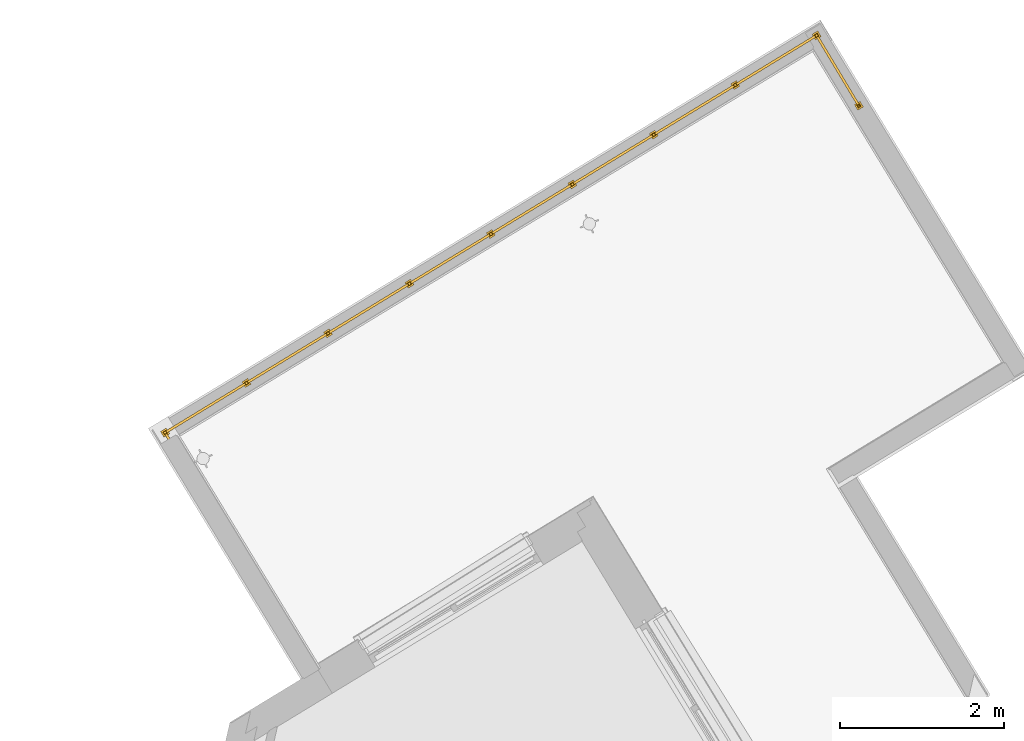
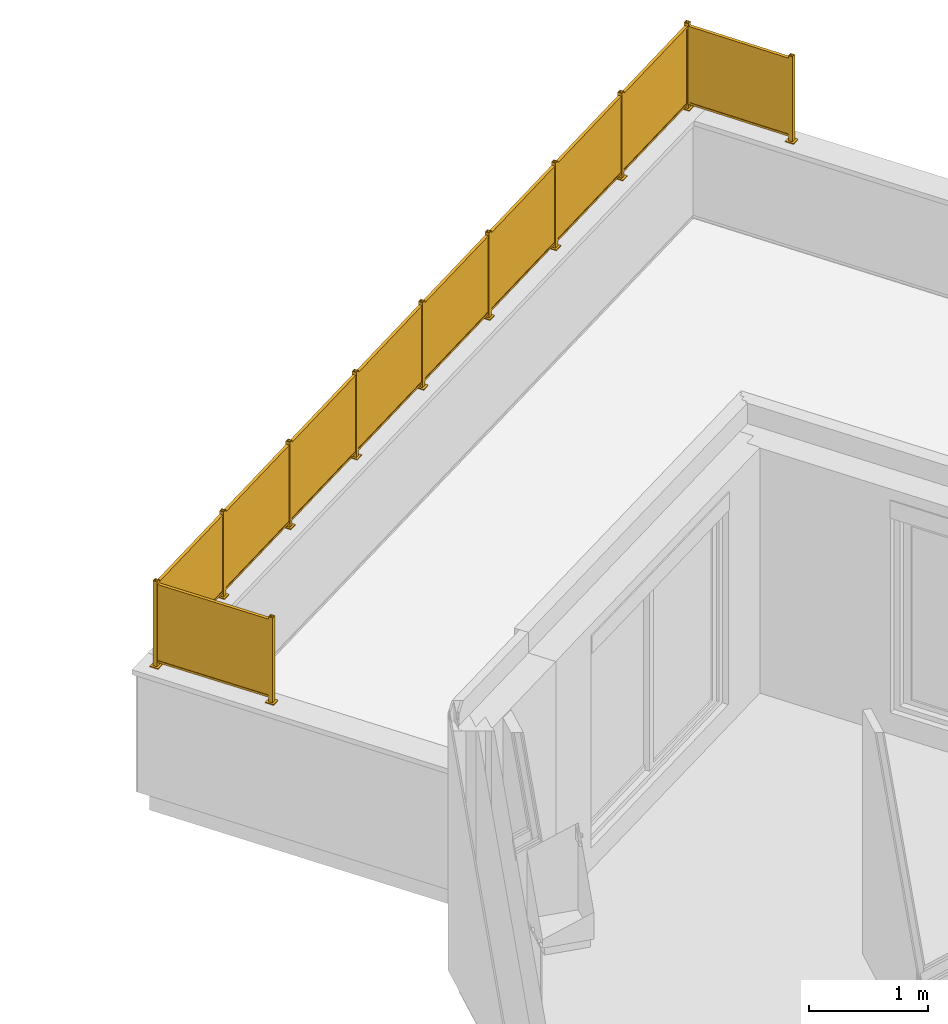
# One storey, part 61 of 91: 1 railing.
"""IFC2X3 building model written with IfcOpenShell, lengths in metres."""

from ifc_helpers import new_model, entity, si_unit, converted_unit, derived_unit, money_unit, direction, frame, origin_with_axes, place, context, subcontext, project, spatial, faceted_brep, material, material_list, type_object, element, save


model = new_model("IFC2X3")

# Units and contexts
model_context = context("Model", 3, precision=1e-05, world=origin_with_axes(), true_north=direction((0.0, 1.0)))
body_context = subcontext(model_context, "Body", "Model", "MODEL_VIEW")
ifc_project = project(units=[si_unit("LENGTHUNIT", "METRE"), si_unit("AREAUNIT", "SQUARE_METRE"), si_unit("VOLUMEUNIT", "CUBIC_METRE"), converted_unit("PLANEANGLEUNIT", "DEGREE", entity("IfcPlaneAngleMeasure", 0.0174532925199), si_unit("PLANEANGLEUNIT", "RADIAN"), dimensions=[0, 0, 0, 0, 0, 0, 0]), si_unit("SOLIDANGLEUNIT", "STERADIAN"), money_unit("EUR"), converted_unit("TIMEUNIT", "Year", entity("IfcTimeMeasure", 31556926.0), si_unit("TIMEUNIT", "SECOND"), dimensions=[0, 0, 1, 0, 0, 0, 0]), si_unit("MASSUNIT", "GRAM", prefix="KILO"), si_unit("THERMODYNAMICTEMPERATUREUNIT", "DEGREE_CELSIUS"), si_unit("LUMINOUSINTENSITYUNIT", "LUMEN"), si_unit("ENERGYUNIT", "JOULE", prefix="MEGA"), derived_unit("THERMALCONDUCTANCEUNIT", [(si_unit("POWERUNIT", "WATT"), 1), (si_unit("LENGTHUNIT", "METRE"), -1), (si_unit("THERMODYNAMICTEMPERATUREUNIT", "KELVIN"), -1)]), derived_unit("SPECIFICHEATCAPACITYUNIT", [(si_unit("ENERGYUNIT", "JOULE"), 1), (si_unit("MASSUNIT", "GRAM", prefix="KILO"), -1), (si_unit("THERMODYNAMICTEMPERATUREUNIT", "KELVIN"), -1)]), derived_unit("MASSDENSITYUNIT", [(si_unit("MASSUNIT", "GRAM", prefix="KILO"), 1), (si_unit("VOLUMEUNIT", "CUBIC_METRE"), -1)])], contexts=[model_context])

# Site, building, storey
site_placement = place(None, origin_with_axes())
site = spatial("IfcSite", under=ifc_project, at=site_placement, Name="Site", CompositionType="ELEMENT")
building_placement = place(site_placement, origin_with_axes())
building = spatial("IfcBuilding", under=site, at=building_placement, Name="Bâtiment", CompositionType="ELEMENT")
storey_placement = place(building_placement, frame((0.0, 0.0, 5.44), z_axis=(0.0, 0.0, 1.0), x_axis=(1.0, 0.0, 0.0)))
storey = spatial("IfcBuildingStorey", under=building, at=storey_placement, Name="R+2", CompositionType="ELEMENT", Elevation=5.44)

# Railing
ifc_material_1 = material(Name="Métal - Acier")
ifc_material_2 = material(Name="Métal - Acier inoxidable")
ifc_material_3 = material(Name="Vitrage")
ifc_material_list = material_list([ifc_material_1, ifc_material_1, ifc_material_1, ifc_material_1, ifc_material_2, ifc_material_3, ifc_material_2, ifc_material_3, ifc_material_1, ifc_material_2, ifc_material_3, ifc_material_1, ifc_material_2, ifc_material_3, ifc_material_1, ifc_material_2, ifc_material_3, ifc_material_1, ifc_material_2, ifc_material_3, ifc_material_1, ifc_material_2, ifc_material_3, ifc_material_1, ifc_material_2, ifc_material_3, ifc_material_1, ifc_material_2, ifc_material_3, ifc_material_2, ifc_material_3])
railing_type = type_object("IfcRailingType", Name="Type de garde-corps", PredefinedType="NOTDEFINED")
railing_placement = place(storey_placement, frame((-7.64598547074, 21.1799278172, 1.253), z_axis=(0.0, 0.0, 1.0), x_axis=(1.0, 0.0, 0.0)))
element("IfcRailing", 1, at=railing_placement, inside=storey, type_object=railing_type, material=ifc_material_list, Name="Pare-vue acier laqué+verre dépoli H=90", PredefinedType="NOTDEFINED", context=body_context, shape_type="Brep", body=[
    faceted_brep([(0.560882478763, -0.945621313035, 0.01), (0.586473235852, -0.929965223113, 0.01), (0.586473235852, -0.929965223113, 0.88), (0.560882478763, -0.945621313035, 0.88), (0.554008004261, -0.943965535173, 0.01), (0.588129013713, -0.923090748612, 0.01), (0.609003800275, -0.957211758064, 0.01), (0.574882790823, -0.978086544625, 0.01), (0.602129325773, -0.955555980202, 0.01), (0.576538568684, -0.971212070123, 0.01), (0.602129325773, -0.955555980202, 0.88), (0.609003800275, -0.957211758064, 0.88), (0.588129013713, -0.923090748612, 0.88), (0.554008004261, -0.943965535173, 0.88), (0.574882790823, -0.978086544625, 0.88), (0.576538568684, -0.971212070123, 0.88)], [[[0, 1, 2, 3]], [[4, 5, 6, 7], [8, 1, 0, 9]], [[1, 8, 10, 2]], [[11, 12, 13, 14], [3, 2, 10, 15]], [[9, 0, 3, 15]], [[5, 4, 13, 12]], [[6, 5, 12, 11]], [[7, 6, 11, 14]], [[4, 7, 14, 13]], [[8, 9, 15, 10]]]),
    faceted_brep([(0.568259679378, -1.00558444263, 0.0), (0.568259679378, -1.00558444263, 0.01), (0.526510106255, -0.937342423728, 0.01), (0.526510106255, -0.937342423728, 0.0), (0.636501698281, -0.963834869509, 0.0), (0.636501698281, -0.963834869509, 0.01), (0.594752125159, -0.895592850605, 0.01), (0.594752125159, -0.895592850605, 0.0)], [[[0, 1, 2, 3]], [[4, 5, 1, 0]], [[1, 5, 6, 2]], [[3, 2, 6, 7]], [[0, 3, 7, 4]], [[7, 6, 5, 4]]]),
    faceted_brep([(-0.0146015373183, -0.00496041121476, 0.01), (0.0109892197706, 0.0106956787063, 0.01), (0.0109892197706, 0.0106956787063, 0.88), (-0.0146015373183, -0.00496041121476, 0.88), (-0.02147601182, -0.00330463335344, 0.01), (0.0126449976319, 0.0175701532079, 0.01), (0.0335197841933, -0.016550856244, 0.01), (-0.000601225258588, -0.0374256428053, 0.01), (0.0266453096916, -0.0148950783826, 0.01), (0.00105455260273, -0.0305511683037, 0.01), (0.0266453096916, -0.0148950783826, 0.88), (0.0335197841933, -0.016550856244, 0.88), (0.0126449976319, 0.0175701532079, 0.88), (-0.02147601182, -0.00330463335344, 0.88), (-0.000601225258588, -0.0374256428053, 0.88), (0.00105455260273, -0.0305511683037, 0.88)], [[[0, 1, 2, 3]], [[4, 5, 6, 7], [8, 1, 0, 9]], [[1, 8, 10, 2]], [[11, 12, 13, 14], [3, 2, 10, 15]], [[9, 0, 3, 15]], [[5, 4, 13, 12]], [[6, 5, 12, 11]], [[7, 6, 11, 14]], [[4, 7, 14, 13]], [[8, 9, 15, 10]]]),
    faceted_brep([(-0.00722433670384, -0.064923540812, 0.0), (-0.00722433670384, -0.064923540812, 0.01), (-0.0489739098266, 0.00331847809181, 0.01), (-0.0489739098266, 0.00331847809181, 0.0), (0.0610176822, -0.0231739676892, 0.0), (0.0610176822, -0.0231739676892, 0.01), (0.0192681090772, 0.0450680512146, 0.01), (0.0192681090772, 0.0450680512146, 0.0)], [[[0, 1, 2, 3]], [[4, 5, 1, 0]], [[1, 5, 6, 2]], [[3, 2, 6, 7]], [[0, 3, 7, 4]], [[7, 6, 5, 4]]]),
    faceted_brep([(7.94738930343, 4.84945334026, 0.01), (7.96300638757, 4.82383876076, 0.01), (7.96300638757, 4.82383876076, 0.88), (7.94738930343, 4.84945334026, 0.88), (7.94905555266, 4.8563252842, 0.01), (7.96987833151, 4.82217251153, 0.01), (7.93572555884, 4.80134973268, 0.01), (7.91490277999, 4.83550250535, 0.01), (7.93739180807, 4.80822167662, 0.01), (7.92177472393, 4.83383625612, 0.01), (7.93739180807, 4.80822167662, 0.88), (7.93572555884, 4.80134973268, 0.88), (7.96987833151, 4.82217251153, 0.88), (7.94905555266, 4.8563252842, 0.88), (7.91490277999, 4.83550250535, 0.88), (7.92177472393, 4.83383625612, 0.88)], [[[0, 1, 2, 3]], [[4, 5, 6, 7], [8, 1, 0, 9]], [[1, 8, 10, 2]], [[11, 12, 13, 14], [3, 2, 10, 15]], [[9, 0, 3, 15]], [[5, 4, 13, 12]], [[6, 5, 12, 11]], [[7, 6, 11, 14]], [[4, 7, 14, 13]], [[8, 9, 15, 10]]]),
    faceted_brep([(7.88741500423, 4.84216750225, 0.0), (7.88741500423, 4.84216750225, 0.01), (7.95572054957, 4.88381305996, 0.01), (7.95572054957, 4.88381305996, 0.0), (7.92906056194, 4.77386195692, 0.0), (7.92906056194, 4.77386195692, 0.01), (7.99736610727, 4.81550751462, 0.01), (7.99736610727, 4.81550751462, 0.0)], [[[0, 1, 2, 3]], [[4, 5, 1, 0]], [[1, 5, 6, 2]], [[3, 2, 6, 7]], [[0, 3, 7, 4]], [[7, 6, 5, 4]]]),
    faceted_brep([(8.47779575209, 3.96640416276, 0.01), (8.4520768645, 3.95095946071, 0.01), (8.4520768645, 3.95095946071, 0.88), (8.47779575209, 3.96640416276, 0.88), (8.48465635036, 3.9646917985, 0.01), (8.45036450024, 3.94409886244, 0.01), (8.42977156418, 3.97839071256, 0.01), (8.4640634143, 3.99898364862, 0.01), (8.43663216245, 3.9766783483, 0.01), (8.46235105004, 3.99212305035, 0.01), (8.43663216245, 3.9766783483, 0.88), (8.42977156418, 3.97839071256, 0.88), (8.45036450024, 3.94409886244, 0.88), (8.48465635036, 3.9646917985, 0.88), (8.4640634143, 3.99898364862, 0.88), (8.46235105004, 3.99212305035, 0.88)], [[[0, 1, 2, 3]], [[4, 5, 6, 7], [8, 1, 0, 9]], [[1, 8, 10, 2]], [[11, 12, 13, 14], [3, 2, 10, 15]], [[9, 0, 3, 15]], [[5, 4, 13, 12]], [[6, 5, 12, 11]], [[7, 6, 11, 14]], [[4, 7, 14, 13]], [[8, 9, 15, 10]]]),
    faceted_brep([(8.47091287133, 4.02642604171, 0.0), (8.47091287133, 4.02642604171, 0.01), (8.51209874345, 3.95784234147, 0.01), (8.51209874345, 3.95784234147, 0.0), (8.40232917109, 3.98524016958, 0.0), (8.40232917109, 3.98524016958, 0.01), (8.44351504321, 3.91665646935, 0.01), (8.44351504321, 3.91665646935, 0.0)], [[[0, 1, 2, 3]], [[4, 5, 1, 0]], [[1, 5, 6, 2]], [[3, 2, 6, 7]], [[0, 3, 7, 4]], [[7, 6, 5, 4]]]),
    faceted_brep([(0.568710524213, -0.958416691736, 0.0499999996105), (0.568710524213, -0.958416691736, 0.850000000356), (-0.0146134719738, -0.00494090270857, 0.850000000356), (-0.0146134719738, -0.00494090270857, 0.0499999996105), (0.558273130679, -0.941356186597, 0.0700000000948), (-0.00417607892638, -0.0220014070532, 0.0700000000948), (-0.00417607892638, -0.0220014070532, 0.829999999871), (0.558273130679, -0.941356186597, 0.829999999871), (0.59430128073, -0.942760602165, 0.850000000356), (0.59430128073, -0.942760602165, 0.0499999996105), (0.0266572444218, -0.014914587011, 0.850000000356), (0.0266572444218, -0.014914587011, 0.0499999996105), (0.0370946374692, -0.0319750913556, 0.0700000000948), (0.583863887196, -0.925700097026, 0.0700000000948), (0.0370946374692, -0.0319750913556, 0.829999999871), (0.583863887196, -0.925700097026, 0.829999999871)], [[[0, 1, 2, 3], [4, 5, 6, 7]], [[8, 1, 0, 9]], [[2, 1, 8, 10]], [[3, 2, 10, 11]], [[9, 0, 3, 11]], [[12, 5, 4, 13]], [[6, 5, 12, 14]], [[7, 6, 14, 15]], [[13, 4, 7, 15]], [[10, 8, 9, 11], [14, 12, 13, 15]]]),
    faceted_brep([(0.562538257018, -0.938746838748, 0.0699999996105), (0.562538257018, -0.938746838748, 0.830000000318), (0.00270237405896, -0.0236636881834, 0.830000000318), (0.00270237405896, -0.0236636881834, 0.0699999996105), (0.579598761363, -0.928309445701, 0.830000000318), (0.579598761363, -0.928309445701, 0.0699999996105), (0.0302161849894, -0.0303128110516, 0.830000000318), (0.0302161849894, -0.0303128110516, 0.0699999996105)], [[[0, 1, 2, 3]], [[4, 1, 0, 5]], [[2, 1, 4, 6]], [[3, 2, 6, 7]], [[5, 0, 3, 7]], [[6, 4, 5, 7]]]),
    faceted_brep([(-0.0146134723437, -0.00494090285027, 0.0499999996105), (-0.0146134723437, -0.00494090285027, 0.850000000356), (0.990259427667, 0.607725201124, 0.850000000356), (0.990259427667, 0.607725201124, 0.0499999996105), (0.0024629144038, 0.00547048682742, 0.0700000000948), (0.973183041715, 0.597313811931, 0.0700000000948), (0.973183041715, 0.597313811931, 0.829999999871), (0.0024629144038, 0.00547048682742, 0.829999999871), (0.0266572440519, -0.0149145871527, 0.850000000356), (0.0266572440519, -0.0149145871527, 0.0499999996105), (1.00587651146, 0.582110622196, 0.850000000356), (1.00587651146, 0.582110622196, 0.0499999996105), (0.988800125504, 0.571699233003, 0.0700000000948), (0.0437336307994, -0.00450319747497, 0.0700000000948), (0.988800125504, 0.571699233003, 0.829999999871), (0.0437336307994, -0.00450319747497, 0.829999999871)], [[[0, 1, 2, 3], [4, 5, 6, 7]], [[8, 1, 0, 9]], [[2, 1, 8, 10]], [[3, 2, 10, 11]], [[9, 0, 3, 11]], [[12, 5, 4, 13]], [[6, 5, 12, 14]], [[7, 6, 14, 15]], [[13, 4, 7, 15]], [[10, 8, 9, 11], [14, 12, 13, 15]]]),
    faceted_brep([(0.00934136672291, 0.00380820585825, 0.0699999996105), (0.00934136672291, 0.00380820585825, 0.830000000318), (0.975785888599, 0.593044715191, 0.830000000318), (0.975785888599, 0.593044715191, 0.0699999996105), (0.0368551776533, -0.00284091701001, 0.830000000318), (0.0368551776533, -0.00284091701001, 0.0699999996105), (0.986197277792, 0.575968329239, 0.830000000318), (0.986197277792, 0.575968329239, 0.0699999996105)], [[[0, 1, 2, 3]], [[4, 1, 0, 5]], [[2, 1, 4, 6]], [[3, 2, 6, 7]], [[5, 0, 3, 7]], [[6, 4, 5, 7]]]),
    faceted_brep([(1.00306671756, 0.615533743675, 0.01), (1.0186838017, 0.589919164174, 0.01), (1.0186838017, 0.589919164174, 0.88), (1.00306671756, 0.615533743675, 0.88), (1.00473296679, 0.622405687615, 0.01), (1.02555574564, 0.588252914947, 0.01), (0.991402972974, 0.567430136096, 0.01), (0.970580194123, 0.601582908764, 0.01), (0.993069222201, 0.574302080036, 0.01), (0.977452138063, 0.599916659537, 0.01), (0.993069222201, 0.574302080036, 0.88), (0.991402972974, 0.567430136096, 0.88), (1.02555574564, 0.588252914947, 0.88), (1.00473296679, 0.622405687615, 0.88), (0.970580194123, 0.601582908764, 0.88), (0.977452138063, 0.599916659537, 0.88)], [[[0, 1, 2, 3]], [[4, 5, 6, 7], [8, 1, 0, 9]], [[1, 8, 10, 2]], [[11, 12, 13, 14], [3, 2, 10, 15]], [[9, 0, 3, 15]], [[5, 4, 13, 12]], [[6, 5, 12, 11]], [[7, 6, 11, 14]], [[4, 7, 14, 13]], [[8, 9, 15, 10]]]),
    faceted_brep([(0.943092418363, 0.608247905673, 0.0), (0.943092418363, 0.608247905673, 0.01), (1.0113979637, 0.649893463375, 0.01), (1.0113979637, 0.649893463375, 0.0), (0.984737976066, 0.539942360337, 0.0), (0.984737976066, 0.539942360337, 0.01), (1.0530435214, 0.581587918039, 0.01), (1.0530435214, 0.581587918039, 0.0)], [[[0, 1, 2, 3]], [[4, 5, 1, 0]], [[1, 5, 6, 2]], [[3, 2, 6, 7]], [[0, 3, 7, 4]], [[7, 6, 5, 4]]]),
    faceted_brep([(1.98230551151, 1.21257085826, 0.05), (0.990259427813, 0.607725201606, 0.05), (0.990259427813, 0.607725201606, 0.85), (1.98230551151, 1.21257085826, 0.85), (1.00733581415, 0.618136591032, 0.83), (1.00733581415, 0.618136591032, 0.07), (1.96522912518, 1.20215946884, 0.07), (1.96522912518, 1.20215946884, 0.83), (1.00587651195, 0.582110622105, 0.05), (1.99792259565, 1.18695627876, 0.05), (1.00587651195, 0.582110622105, 0.85), (1.99792259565, 1.18695627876, 0.85), (1.02295289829, 0.592522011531, 0.07), (1.02295289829, 0.592522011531, 0.83), (1.98084620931, 1.17654488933, 0.07), (1.98084620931, 1.17654488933, 0.83)], [[[0, 1, 2, 3], [4, 5, 6, 7]], [[8, 1, 0, 9]], [[10, 2, 1, 8]], [[3, 2, 10, 11]], [[0, 3, 11, 9]], [[12, 5, 4, 13]], [[14, 6, 5, 12]], [[7, 6, 14, 15]], [[4, 7, 15, 13]], [[10, 8, 9, 11], [14, 12, 13, 15]]]),
    faceted_brep([(1.96783197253, 1.19789037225, 0.07), (1.0099386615, 0.613867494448, 0.07), (1.0099386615, 0.613867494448, 0.83), (1.96783197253, 1.19789037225, 0.83), (1.02035005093, 0.596791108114, 0.07), (1.97824336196, 1.18081398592, 0.07), (1.02035005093, 0.596791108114, 0.83), (1.97824336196, 1.18081398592, 0.83)], [[[0, 1, 2, 3]], [[4, 1, 0, 5]], [[6, 2, 1, 4]], [[3, 2, 6, 7]], [[0, 3, 7, 5]], [[6, 4, 5, 7]]]),
    faceted_brep([(1.99511280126, 1.22037940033, 0.01), (2.0107298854, 1.19476482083, 0.01), (2.0107298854, 1.19476482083, 0.88), (1.99511280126, 1.22037940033, 0.88), (1.99677905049, 1.22725134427, 0.01), (2.01760182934, 1.1930985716, 0.01), (1.98344905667, 1.17227579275, 0.01), (1.96262627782, 1.20642856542, 0.01), (1.9851153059, 1.17914773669, 0.01), (1.96949822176, 1.20476231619, 0.01), (1.9851153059, 1.17914773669, 0.88), (1.98344905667, 1.17227579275, 0.88), (2.01760182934, 1.1930985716, 0.88), (1.99677905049, 1.22725134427, 0.88), (1.96262627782, 1.20642856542, 0.88), (1.96949822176, 1.20476231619, 0.88)], [[[0, 1, 2, 3]], [[4, 5, 6, 7], [8, 1, 0, 9]], [[1, 8, 10, 2]], [[11, 12, 13, 14], [3, 2, 10, 15]], [[9, 0, 3, 15]], [[5, 4, 13, 12]], [[6, 5, 12, 11]], [[7, 6, 11, 14]], [[4, 7, 14, 13]], [[8, 9, 15, 10]]]),
    faceted_brep([(1.93513850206, 1.21309356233, 0.0), (1.93513850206, 1.21309356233, 0.01), (2.0034440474, 1.25473912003, 0.01), (2.0034440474, 1.25473912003, 0.0), (1.97678405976, 1.14478801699, 0.0), (1.97678405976, 1.14478801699, 0.01), (2.0450896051, 1.18643357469, 0.01), (2.0450896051, 1.18643357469, 0.0)], [[[0, 1, 2, 3]], [[4, 5, 1, 0]], [[1, 5, 6, 2]], [[3, 2, 6, 7]], [[0, 3, 7, 4]], [[7, 6, 5, 4]]]),
    faceted_brep([(2.9743515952, 1.81741651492, 0.05), (1.98230551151, 1.21257085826, 0.05), (1.98230551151, 1.21257085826, 0.85), (2.9743515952, 1.81741651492, 0.85), (1.99938189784, 1.22298224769, 0.83), (1.99938189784, 1.22298224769, 0.07), (2.95727520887, 1.80700512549, 0.07), (2.95727520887, 1.80700512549, 0.83), (1.99792259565, 1.18695627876, 0.05), (2.98996867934, 1.79180193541, 0.05), (1.99792259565, 1.18695627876, 0.85), (2.98996867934, 1.79180193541, 0.85), (2.01499898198, 1.19736766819, 0.07), (2.01499898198, 1.19736766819, 0.83), (2.97289229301, 1.78139054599, 0.07), (2.97289229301, 1.78139054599, 0.83)], [[[0, 1, 2, 3], [4, 5, 6, 7]], [[8, 1, 0, 9]], [[10, 2, 1, 8]], [[3, 2, 10, 11]], [[0, 3, 11, 9]], [[12, 5, 4, 13]], [[14, 6, 5, 12]], [[7, 6, 14, 15]], [[4, 7, 15, 13]], [[10, 8, 9, 11], [14, 12, 13, 15]]]),
    faceted_brep([(2.95987805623, 1.80273602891, 0.07), (2.0019847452, 1.2187131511, 0.07), (2.0019847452, 1.2187131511, 0.83), (2.95987805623, 1.80273602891, 0.83), (2.01239613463, 1.20163676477, 0.07), (2.97028944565, 1.78565964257, 0.07), (2.01239613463, 1.20163676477, 0.83), (2.97028944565, 1.78565964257, 0.83)], [[[0, 1, 2, 3]], [[4, 1, 0, 5]], [[6, 2, 1, 4]], [[3, 2, 6, 7]], [[0, 3, 7, 5]], [[6, 4, 5, 7]]]),
    faceted_brep([(2.98715888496, 1.82522505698, 0.01), (3.00277596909, 1.79961047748, 0.01), (3.00277596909, 1.79961047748, 0.88), (2.98715888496, 1.82522505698, 0.88), (2.98882513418, 1.83209700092, 0.01), (3.00964791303, 1.79794422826, 0.01), (2.97549514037, 1.7771214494, 0.01), (2.95467236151, 1.81127422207, 0.01), (2.97716138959, 1.78399339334, 0.01), (2.96154430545, 1.80960797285, 0.01), (2.97716138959, 1.78399339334, 0.88), (2.97549514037, 1.7771214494, 0.88), (3.00964791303, 1.79794422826, 0.88), (2.98882513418, 1.83209700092, 0.88), (2.95467236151, 1.81127422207, 0.88), (2.96154430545, 1.80960797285, 0.88)], [[[0, 1, 2, 3]], [[4, 5, 6, 7], [8, 1, 0, 9]], [[1, 8, 10, 2]], [[11, 12, 13, 14], [3, 2, 10, 15]], [[9, 0, 3, 15]], [[5, 4, 13, 12]], [[6, 5, 12, 11]], [[7, 6, 11, 14]], [[4, 7, 14, 13]], [[8, 9, 15, 10]]]),
    faceted_brep([(2.92718458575, 1.81793921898, 0.0), (2.92718458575, 1.81793921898, 0.01), (2.99549013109, 1.85958477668, 0.01), (2.99549013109, 1.85958477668, 0.0), (2.96883014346, 1.74963367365, 0.0), (2.96883014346, 1.74963367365, 0.01), (3.03713568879, 1.79127923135, 0.01), (3.03713568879, 1.79127923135, 0.0)], [[[0, 1, 2, 3]], [[4, 5, 1, 0]], [[1, 5, 6, 2]], [[3, 2, 6, 7]], [[0, 3, 7, 4]], [[7, 6, 5, 4]]]),
    faceted_brep([(3.9663976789, 2.42226217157, 0.05), (2.9743515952, 1.81741651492, 0.05), (2.9743515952, 1.81741651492, 0.85), (3.9663976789, 2.42226217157, 0.85), (2.99142798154, 1.82782790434, 0.83), (2.99142798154, 1.82782790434, 0.07), (3.94932129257, 2.41185078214, 0.07), (3.94932129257, 2.41185078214, 0.83), (2.98996867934, 1.79180193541, 0.05), (3.98201476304, 2.39664759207, 0.05), (2.98996867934, 1.79180193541, 0.85), (3.98201476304, 2.39664759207, 0.85), (3.00704506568, 1.80221332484, 0.07), (3.00704506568, 1.80221332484, 0.83), (3.9649383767, 2.38623620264, 0.07), (3.9649383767, 2.38623620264, 0.83)], [[[0, 1, 2, 3], [4, 5, 6, 7]], [[8, 1, 0, 9]], [[10, 2, 1, 8]], [[3, 2, 10, 11]], [[0, 3, 11, 9]], [[12, 5, 4, 13]], [[14, 6, 5, 12]], [[7, 6, 14, 15]], [[4, 7, 15, 13]], [[10, 8, 9, 11], [14, 12, 13, 15]]]),
    faceted_brep([(3.95192413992, 2.40758168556, 0.07), (2.9940308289, 1.82355880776, 0.07), (2.9940308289, 1.82355880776, 0.83), (3.95192413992, 2.40758168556, 0.83), (3.00444221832, 1.80648242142, 0.07), (3.96233552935, 2.39050529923, 0.07), (3.00444221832, 1.80648242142, 0.83), (3.96233552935, 2.39050529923, 0.83)], [[[0, 1, 2, 3]], [[4, 1, 0, 5]], [[6, 2, 1, 4]], [[3, 2, 6, 7]], [[0, 3, 7, 5]], [[6, 4, 5, 7]]]),
    faceted_brep([(3.97920496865, 2.43007071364, 0.01), (3.99482205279, 2.40445613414, 0.01), (3.99482205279, 2.40445613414, 0.88), (3.97920496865, 2.43007071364, 0.88), (3.98087121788, 2.43694265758, 0.01), (4.00169399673, 2.40278988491, 0.01), (3.96754122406, 2.38196710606, 0.01), (3.94671844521, 2.41611987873, 0.01), (3.96920747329, 2.38883905, 0.01), (3.95359038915, 2.4144536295, 0.01), (3.96920747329, 2.38883905, 0.88), (3.96754122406, 2.38196710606, 0.88), (4.00169399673, 2.40278988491, 0.88), (3.98087121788, 2.43694265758, 0.88), (3.94671844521, 2.41611987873, 0.88), (3.95359038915, 2.4144536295, 0.88)], [[[0, 1, 2, 3]], [[4, 5, 6, 7], [8, 1, 0, 9]], [[1, 8, 10, 2]], [[11, 12, 13, 14], [3, 2, 10, 15]], [[9, 0, 3, 15]], [[5, 4, 13, 12]], [[6, 5, 12, 11]], [[7, 6, 11, 14]], [[4, 7, 14, 13]], [[8, 9, 15, 10]]]),
    faceted_brep([(3.91923066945, 2.42278487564, 0.0), (3.91923066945, 2.42278487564, 0.01), (3.98753621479, 2.46443043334, 0.01), (3.98753621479, 2.46443043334, 0.0), (3.96087622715, 2.3544793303, 0.0), (3.96087622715, 2.3544793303, 0.01), (4.02918177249, 2.396124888, 0.01), (4.02918177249, 2.396124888, 0.0)], [[[0, 1, 2, 3]], [[4, 5, 1, 0]], [[1, 5, 6, 2]], [[3, 2, 6, 7]], [[0, 3, 7, 4]], [[7, 6, 5, 4]]]),
    faceted_brep([(4.9584437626, 3.02710782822, 0.05), (3.9663976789, 2.42226217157, 0.05), (3.9663976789, 2.42226217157, 0.85), (4.9584437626, 3.02710782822, 0.85), (3.98347406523, 2.432673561, 0.83), (3.98347406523, 2.432673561, 0.07), (4.94136737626, 3.0166964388, 0.07), (4.94136737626, 3.0166964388, 0.83), (3.98201476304, 2.39664759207, 0.05), (4.97406084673, 3.00149324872, 0.05), (3.98201476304, 2.39664759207, 0.85), (4.97406084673, 3.00149324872, 0.85), (3.99909114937, 2.40705898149, 0.07), (3.99909114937, 2.40705898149, 0.83), (4.9569844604, 2.9910818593, 0.07), (4.9569844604, 2.9910818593, 0.83)], [[[0, 1, 2, 3], [4, 5, 6, 7]], [[8, 1, 0, 9]], [[10, 2, 1, 8]], [[3, 2, 10, 11]], [[0, 3, 11, 9]], [[12, 5, 4, 13]], [[14, 6, 5, 12]], [[7, 6, 14, 15]], [[4, 7, 15, 13]], [[10, 8, 9, 11], [14, 12, 13, 15]]]),
    faceted_brep([(4.94397022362, 3.01242734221, 0.07), (3.98607691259, 2.42840446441, 0.07), (3.98607691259, 2.42840446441, 0.83), (4.94397022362, 3.01242734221, 0.83), (3.99648830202, 2.41132807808, 0.07), (4.95438161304, 2.99535095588, 0.07), (3.99648830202, 2.41132807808, 0.83), (4.95438161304, 2.99535095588, 0.83)], [[[0, 1, 2, 3]], [[4, 1, 0, 5]], [[6, 2, 1, 4]], [[3, 2, 6, 7]], [[0, 3, 7, 5]], [[6, 4, 5, 7]]]),
    faceted_brep([(4.97125105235, 3.03491637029, 0.01), (4.98686813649, 3.00930179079, 0.01), (4.98686813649, 3.00930179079, 0.88), (4.97125105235, 3.03491637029, 0.88), (4.97291730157, 3.04178831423, 0.01), (4.99374008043, 3.00763554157, 0.01), (4.95958730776, 2.98681276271, 0.01), (4.93876452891, 3.02096553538, 0.01), (4.96125355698, 2.99368470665, 0.01), (4.94563647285, 3.01929928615, 0.01), (4.96125355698, 2.99368470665, 0.88), (4.95958730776, 2.98681276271, 0.88), (4.99374008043, 3.00763554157, 0.88), (4.97291730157, 3.04178831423, 0.88), (4.93876452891, 3.02096553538, 0.88), (4.94563647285, 3.01929928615, 0.88)], [[[0, 1, 2, 3]], [[4, 5, 6, 7], [8, 1, 0, 9]], [[1, 8, 10, 2]], [[11, 12, 13, 14], [3, 2, 10, 15]], [[9, 0, 3, 15]], [[5, 4, 13, 12]], [[6, 5, 12, 11]], [[7, 6, 11, 14]], [[4, 7, 14, 13]], [[8, 9, 15, 10]]]),
    faceted_brep([(4.91127675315, 3.02763053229, 0.0), (4.91127675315, 3.02763053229, 0.01), (4.97958229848, 3.06927608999, 0.01), (4.97958229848, 3.06927608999, 0.0), (4.95292231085, 2.95932498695, 0.0), (4.95292231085, 2.95932498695, 0.01), (5.02122785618, 3.00097054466, 0.01), (5.02122785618, 3.00097054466, 0.0)], [[[0, 1, 2, 3]], [[4, 5, 1, 0]], [[1, 5, 6, 2]], [[3, 2, 6, 7]], [[0, 3, 7, 4]], [[7, 6, 5, 4]]]),
    faceted_brep([(5.95048984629, 3.63195348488, 0.05), (4.9584437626, 3.02710782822, 0.05), (4.9584437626, 3.02710782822, 0.85), (5.95048984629, 3.63195348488, 0.85), (4.97552014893, 3.03751921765, 0.83), (4.97552014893, 3.03751921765, 0.07), (5.93341345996, 3.62154209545, 0.07), (5.93341345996, 3.62154209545, 0.83), (4.97406084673, 3.00149324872, 0.05), (5.96610693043, 3.60633890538, 0.05), (4.97406084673, 3.00149324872, 0.85), (5.96610693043, 3.60633890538, 0.85), (4.99113723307, 3.01190463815, 0.07), (4.99113723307, 3.01190463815, 0.83), (5.9490305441, 3.59592751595, 0.07), (5.9490305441, 3.59592751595, 0.83)], [[[0, 1, 2, 3], [4, 5, 6, 7]], [[8, 1, 0, 9]], [[10, 2, 1, 8]], [[3, 2, 10, 11]], [[0, 3, 11, 9]], [[12, 5, 4, 13]], [[14, 6, 5, 12]], [[7, 6, 14, 15]], [[4, 7, 15, 13]], [[10, 8, 9, 11], [14, 12, 13, 15]]]),
    faceted_brep([(5.93601630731, 3.61727299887, 0.07), (4.97812299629, 3.03325012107, 0.07), (4.97812299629, 3.03325012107, 0.83), (5.93601630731, 3.61727299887, 0.83), (4.98853438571, 3.01617373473, 0.07), (5.94642769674, 3.60019661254, 0.07), (4.98853438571, 3.01617373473, 0.83), (5.94642769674, 3.60019661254, 0.83)], [[[0, 1, 2, 3]], [[4, 1, 0, 5]], [[6, 2, 1, 4]], [[3, 2, 6, 7]], [[0, 3, 7, 5]], [[6, 4, 5, 7]]]),
    faceted_brep([(5.96329713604, 3.63976202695, 0.01), (5.97891422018, 3.61414744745, 0.01), (5.97891422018, 3.61414744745, 0.88), (5.96329713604, 3.63976202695, 0.88), (5.96496338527, 3.64663397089, 0.01), (5.98578616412, 3.61248119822, 0.01), (5.95163339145, 3.59165841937, 0.01), (5.9308106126, 3.62581119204, 0.01), (5.95329964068, 3.59853036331, 0.01), (5.93768255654, 3.62414494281, 0.01), (5.95329964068, 3.59853036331, 0.88), (5.95163339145, 3.59165841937, 0.88), (5.98578616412, 3.61248119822, 0.88), (5.96496338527, 3.64663397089, 0.88), (5.9308106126, 3.62581119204, 0.88), (5.93768255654, 3.62414494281, 0.88)], [[[0, 1, 2, 3]], [[4, 5, 6, 7], [8, 1, 0, 9]], [[1, 8, 10, 2]], [[11, 12, 13, 14], [3, 2, 10, 15]], [[9, 0, 3, 15]], [[5, 4, 13, 12]], [[6, 5, 12, 11]], [[7, 6, 11, 14]], [[4, 7, 14, 13]], [[8, 9, 15, 10]]]),
    faceted_brep([(5.90332283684, 3.63247618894, 0.0), (5.90332283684, 3.63247618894, 0.01), (5.97162838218, 3.67412174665, 0.01), (5.97162838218, 3.67412174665, 0.0), (5.94496839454, 3.56417064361, 0.0), (5.94496839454, 3.56417064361, 0.01), (6.01327393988, 3.60581620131, 0.01), (6.01327393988, 3.60581620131, 0.0)], [[[0, 1, 2, 3]], [[4, 5, 1, 0]], [[1, 5, 6, 2]], [[3, 2, 6, 7]], [[0, 3, 7, 4]], [[7, 6, 5, 4]]]),
    faceted_brep([(6.94253592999, 4.23679914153, 0.05), (5.95048984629, 3.63195348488, 0.05), (5.95048984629, 3.63195348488, 0.85), (6.94253592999, 4.23679914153, 0.85), (5.96756623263, 3.6423648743, 0.83), (5.96756623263, 3.6423648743, 0.07), (6.92545954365, 4.22638775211, 0.07), (6.92545954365, 4.22638775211, 0.83), (5.96610693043, 3.60633890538, 0.05), (6.95815301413, 4.21118456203, 0.05), (5.96610693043, 3.60633890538, 0.85), (6.95815301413, 4.21118456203, 0.85), (5.98318331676, 3.6167502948, 0.07), (5.98318331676, 3.6167502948, 0.83), (6.94107662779, 4.20077317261, 0.07), (6.94107662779, 4.20077317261, 0.83)], [[[0, 1, 2, 3], [4, 5, 6, 7]], [[8, 1, 0, 9]], [[10, 2, 1, 8]], [[3, 2, 10, 11]], [[0, 3, 11, 9]], [[12, 5, 4, 13]], [[14, 6, 5, 12]], [[7, 6, 14, 15]], [[4, 7, 15, 13]], [[10, 8, 9, 11], [14, 12, 13, 15]]]),
    faceted_brep([(6.92806239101, 4.22211865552, 0.07), (5.97016907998, 3.63809577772, 0.07), (5.97016907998, 3.63809577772, 0.83), (6.92806239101, 4.22211865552, 0.83), (5.98058046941, 3.62101939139, 0.07), (6.93847378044, 4.20504226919, 0.07), (5.98058046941, 3.62101939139, 0.83), (6.93847378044, 4.20504226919, 0.83)], [[[0, 1, 2, 3]], [[4, 1, 0, 5]], [[6, 2, 1, 4]], [[3, 2, 6, 7]], [[0, 3, 7, 5]], [[6, 4, 5, 7]]]),
    faceted_brep([(6.95534321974, 4.2446076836, 0.01), (6.97096030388, 4.2189931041, 0.01), (6.97096030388, 4.2189931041, 0.88), (6.95534321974, 4.2446076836, 0.88), (6.95700946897, 4.25147962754, 0.01), (6.97783224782, 4.21732685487, 0.01), (6.94367947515, 4.19650407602, 0.01), (6.9228566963, 4.23065684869, 0.01), (6.94534572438, 4.20337601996, 0.01), (6.92972864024, 4.22899059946, 0.01), (6.94534572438, 4.20337601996, 0.88), (6.94367947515, 4.19650407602, 0.88), (6.97783224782, 4.21732685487, 0.88), (6.95700946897, 4.25147962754, 0.88), (6.9228566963, 4.23065684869, 0.88), (6.92972864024, 4.22899059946, 0.88)], [[[0, 1, 2, 3]], [[4, 5, 6, 7], [8, 1, 0, 9]], [[1, 8, 10, 2]], [[11, 12, 13, 14], [3, 2, 10, 15]], [[9, 0, 3, 15]], [[5, 4, 13, 12]], [[6, 5, 12, 11]], [[7, 6, 11, 14]], [[4, 7, 14, 13]], [[8, 9, 15, 10]]]),
    faceted_brep([(6.89536892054, 4.2373218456, 0.0), (6.89536892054, 4.2373218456, 0.01), (6.96367446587, 4.2789674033, 0.01), (6.96367446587, 4.2789674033, 0.0), (6.93701447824, 4.16901630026, 0.0), (6.93701447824, 4.16901630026, 0.01), (7.00532002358, 4.21066185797, 0.01), (7.00532002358, 4.21066185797, 0.0)], [[[0, 1, 2, 3]], [[4, 5, 1, 0]], [[1, 5, 6, 2]], [[3, 2, 6, 7]], [[0, 3, 7, 4]], [[7, 6, 5, 4]]]),
    faceted_brep([(6.94253592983, 4.23679914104, 0.0499999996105), (6.94253592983, 4.23679914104, 0.850000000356), (7.94747560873, 4.84950595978, 0.850000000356), (7.94747560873, 4.84950595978, 0.0499999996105), (6.95961231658, 4.24721053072, 0.0700000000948), (7.93039922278, 4.83909457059, 0.0700000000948), (7.93039922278, 4.83909457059, 0.829999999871), (6.95961231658, 4.24721053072, 0.829999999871), (6.95815301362, 4.21118456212, 0.850000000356), (6.95815301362, 4.21118456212, 0.0499999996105), (7.93730550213, 4.8081690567, 0.850000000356), (7.93730550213, 4.8081690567, 0.0499999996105), (7.92022911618, 4.79775766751, 0.0700000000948), (6.97522940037, 4.22159595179, 0.0700000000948), (7.92022911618, 4.79775766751, 0.829999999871), (6.97522940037, 4.22159595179, 0.829999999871)], [[[0, 1, 2, 3], [4, 5, 6, 7]], [[8, 1, 0, 9]], [[2, 1, 8, 10]], [[3, 2, 10, 11]], [[9, 0, 3, 11]], [[12, 5, 4, 13]], [[6, 5, 12, 14]], [[7, 6, 14, 15]], [[13, 4, 7, 15]], [[10, 8, 9, 11], [14, 12, 13, 15]]]),
    faceted_brep([(6.96221516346, 4.24294143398, 0.0699999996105), (6.96221516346, 4.24294143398, 0.830000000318), (7.9287042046, 4.83220508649, 0.830000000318), (7.9287042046, 4.83220508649, 0.0699999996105), (6.97262655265, 4.22586504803, 0.830000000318), (6.97262655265, 4.22586504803, 0.0699999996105), (7.92192413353, 4.8046471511, 0.830000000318), (7.92192413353, 4.8046471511, 0.0699999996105)], [[[0, 1, 2, 3]], [[4, 1, 0, 5]], [[2, 1, 4, 6]], [[3, 2, 6, 7]], [[5, 0, 3, 7]], [[6, 4, 5, 7]]]),
    faceted_brep([(7.94747560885, 4.84950596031, 0.0499999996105), (7.94747560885, 4.84950596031, 0.850000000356), (8.47007340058, 3.97926360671, 0.850000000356), (8.47007340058, 3.97926360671, 0.0499999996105), (7.95777207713, 4.83236003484, 0.0700000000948), (8.45977693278, 3.99640953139, 0.0700000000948), (8.45977693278, 3.99640953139, 0.829999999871), (7.95777207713, 4.83236003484, 0.829999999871), (7.93730550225, 4.80816905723, 0.850000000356), (7.93730550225, 4.80816905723, 0.0499999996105), (8.44435451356, 3.96381890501, 0.850000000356), (8.44435451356, 3.96381890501, 0.0499999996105), (8.43405804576, 3.98096482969, 0.0700000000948), (7.94760197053, 4.79102313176, 0.0700000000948), (8.43405804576, 3.98096482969, 0.829999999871), (7.94760197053, 4.79102313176, 0.829999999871)], [[[0, 1, 2, 3], [4, 5, 6, 7]], [[8, 1, 0, 9]], [[2, 1, 8, 10]], [[3, 2, 10, 11]], [[9, 0, 3, 11]], [[12, 5, 4, 13]], [[6, 5, 12, 14]], [[7, 6, 14, 15]], [[13, 4, 7, 15]], [[10, 8, 9, 11], [14, 12, 13, 15]]]),
    faceted_brep([(7.95607705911, 4.82547055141, 0.0699999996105), (7.95607705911, 4.82547055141, 0.830000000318), (8.45549045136, 3.99383541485, 0.830000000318), (8.45549045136, 3.99383541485, 0.0699999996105), (7.94929698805, 4.79791261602, 0.830000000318), (7.94929698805, 4.79791261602, 0.0699999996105), (8.43834452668, 3.98353894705, 0.830000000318), (8.43834452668, 3.98353894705, 0.0699999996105)], [[[0, 1, 2, 3]], [[4, 1, 0, 5]], [[2, 1, 4, 6]], [[3, 2, 6, 7]], [[5, 0, 3, 7]], [[6, 4, 5, 7]]]),
])

save(model, "model.ifc")
